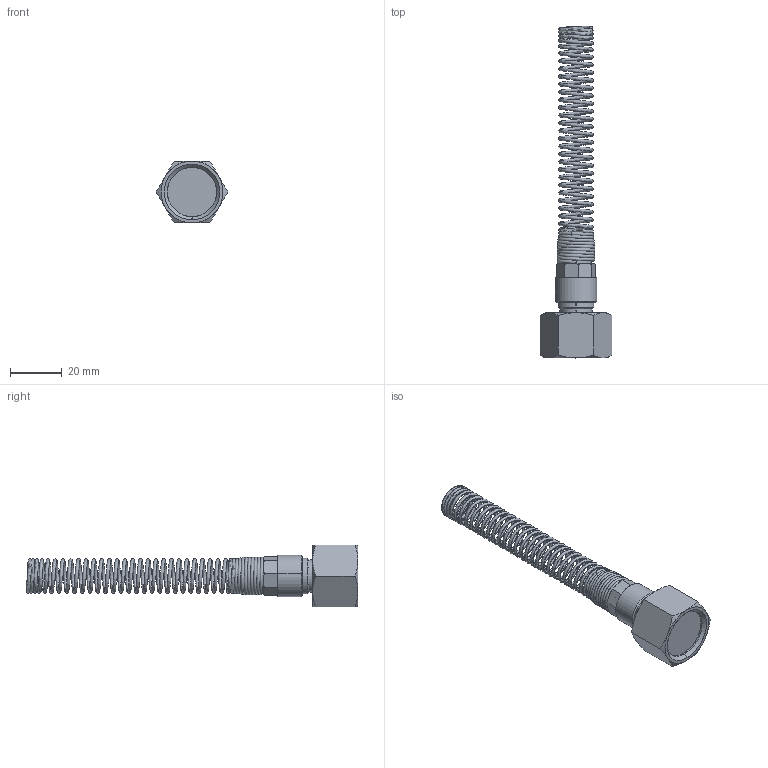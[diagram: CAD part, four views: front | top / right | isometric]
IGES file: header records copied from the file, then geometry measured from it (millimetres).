
Start section: SolidWorks IGES file using analytic representation for surfaces
Global section: file name: K:\Disegni Esecutivi\Serie 1000\Complessivi Serie 1000\1035\1035_iges\0103500010A.IGS; native system: SolidWorks 2008; preprocessor: SolidWorks 2008; author: cad05; date: 090205.112107; units: millimetre
Bounding box: 27.71 x 128.5 x 24 mm (x, y, z)
Surface area: 11343.9 mm2 (no closed solid volume)
Topology: 0 solids, 0 shells, 99 faces, 1534 edges, 1534 vertices
Faces by surface type: revolution 65, bspline 34
